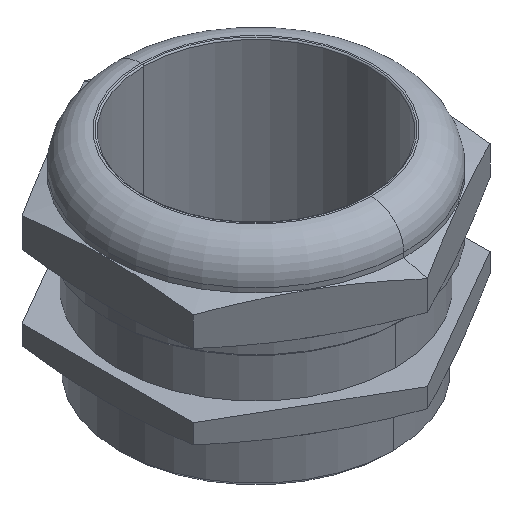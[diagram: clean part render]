
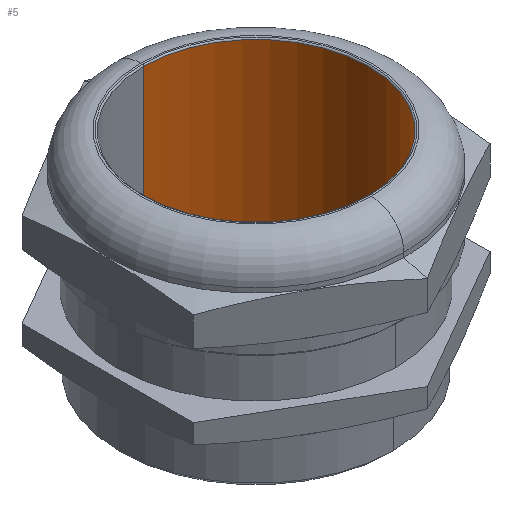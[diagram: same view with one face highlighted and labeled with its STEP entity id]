
A CAD part, isometric view. The second image highlights one B-rep face of the part: STEP entity #5.
In plain terms, the highlighted cylindrical face has radius 24.25 mm (diameter 48.5 mm), a partial arc.
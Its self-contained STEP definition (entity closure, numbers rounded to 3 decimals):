
#5 = ADVANCED_FACE ( 'NONE', ( #320 ), #319, .F. ) ;
#6 = EDGE_LOOP ( 'NONE', ( #7, #20, #21, #22 ) ) ;
#7 = ORIENTED_EDGE ( 'NONE', *, *, #2220, .F. ) ;
#14 = EDGE_CURVE ( 'NONE', #2221, #2207, #401, .T. ) ;
#20 = ORIENTED_EDGE ( 'NONE', *, *, #2142, .T. ) ;
#21 = ORIENTED_EDGE ( 'NONE', *, *, #2167, .T. ) ;
#22 = ORIENTED_EDGE ( 'NONE', *, *, #14, .T. ) ;
#296 = DIRECTION ( 'NONE',  ( 0., 1., 0. ) ) ;
#297 = DIRECTION ( 'NONE',  ( 0., 0., -1. ) ) ;
#298 = AXIS2_PLACEMENT_3D ( 'NONE', #338, #297, #296 ) ;
#319 = CYLINDRICAL_SURFACE ( 'NONE', #341, 24.25 ) ;
#320 = FACE_OUTER_BOUND ( 'NONE', #6, .T. ) ;
#328 = DIRECTION ( 'NONE',  ( 0., 1., 0. ) ) ;
#329 = DIRECTION ( 'NONE',  ( 0., 0., -1. ) ) ;
#330 = CARTESIAN_POINT ( 'NONE',  ( 0., 0., 0. ) ) ;
#338 = CARTESIAN_POINT ( 'NONE',  ( 0., 0., 0. ) ) ;
#341 = AXIS2_PLACEMENT_3D ( 'NONE', #330, #329, #328 ) ;
#401 = CIRCLE ( 'NONE', #298, 24.25 ) ;
#1755 = DIRECTION ( 'NONE',  ( 0., 0., -1. ) ) ;
#1760 = DIRECTION ( 'NONE',  ( 0., 0., -1. ) ) ;
#1761 = VECTOR ( 'NONE', #1760, 1000. ) ;
#1762 = CARTESIAN_POINT ( 'NONE',  ( 0., -24.25, 0. ) ) ;
#1763 = LINE ( 'NONE', #1762, #1761 ) ;
#1834 = CARTESIAN_POINT ( 'NONE',  ( 0., 24.25, 0. ) ) ;
#1842 = AXIS2_PLACEMENT_3D ( 'NONE', #1904, #1903, #1902 ) ;
#1843 = CIRCLE ( 'NONE', #1842, 24.25 ) ;
#1875 = VECTOR ( 'NONE', #1755, 1000. ) ;
#1876 = CARTESIAN_POINT ( 'NONE',  ( 0., 24.25, 0. ) ) ;
#1877 = LINE ( 'NONE', #1876, #1875 ) ;
#1902 = DIRECTION ( 'NONE',  ( 0., -1., 0. ) ) ;
#1903 = DIRECTION ( 'NONE',  ( 0., 0., 1. ) ) ;
#1904 = CARTESIAN_POINT ( 'NONE',  ( 0., 0., 45.7 ) ) ;
#1918 = CARTESIAN_POINT ( 'NONE',  ( 0., -24.25, 0. ) ) ;
#2142 = EDGE_CURVE ( 'NONE', #2316, #2249, #1843, .T. ) ;
#2167 = EDGE_CURVE ( 'NONE', #2249, #2221, #1877, .T. ) ;
#2207 = VERTEX_POINT ( 'NONE', #1918 ) ;
#2220 = EDGE_CURVE ( 'NONE', #2316, #2207, #1763, .T. ) ;
#2221 = VERTEX_POINT ( 'NONE', #1834 ) ;
#2249 = VERTEX_POINT ( 'NONE', #2733 ) ;
#2316 = VERTEX_POINT ( 'NONE', #2572 ) ;
#2572 = CARTESIAN_POINT ( 'NONE',  ( 0., -24.25, 45.7 ) ) ;
#2733 = CARTESIAN_POINT ( 'NONE',  ( 0., 24.25, 45.7 ) ) ;
